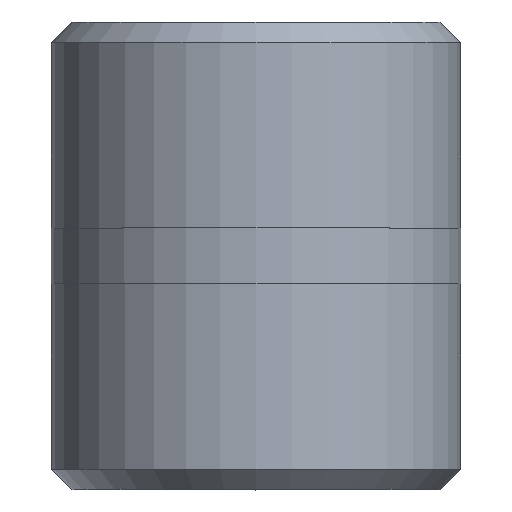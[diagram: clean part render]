
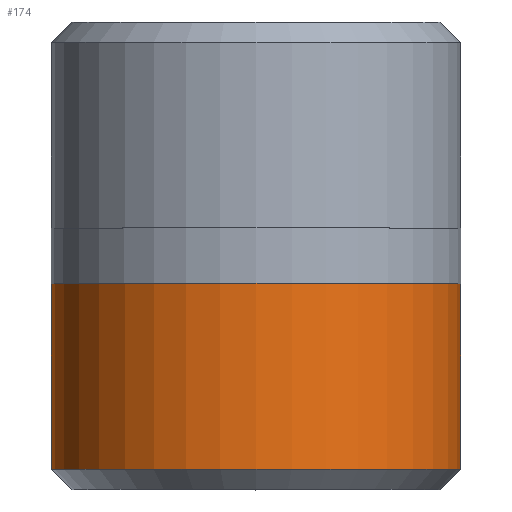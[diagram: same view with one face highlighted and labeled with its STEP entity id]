
A CAD part, top view. The second image highlights one B-rep face of the part: STEP entity #174.
In plain terms, the highlighted cylindrical face has radius 16.675 mm (diameter 33.35 mm), a full revolution.
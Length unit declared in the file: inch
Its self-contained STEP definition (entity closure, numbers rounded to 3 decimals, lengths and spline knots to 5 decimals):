
#23=CYLINDRICAL_SURFACE('',#201,0.6565);
#28=FACE_OUTER_BOUND('',#38,.T.);
#38=EDGE_LOOP('',(#128,#129,#130,#131,#132,#133));
#52=LINE('',#300,#58);
#58=VECTOR('',#238,0.6565);
#64=CIRCLE('',#199,0.6565);
#65=CIRCLE('',#200,0.6565);
#66=CIRCLE('',#202,0.6565);
#67=CIRCLE('',#203,0.6565);
#82=VERTEX_POINT('',#293);
#83=VERTEX_POINT('',#295);
#84=VERTEX_POINT('',#299);
#85=VERTEX_POINT('',#301);
#101=EDGE_CURVE('',#82,#83,#64,.T.);
#102=EDGE_CURVE('',#83,#82,#65,.T.);
#103=EDGE_CURVE('',#83,#84,#52,.T.);
#104=EDGE_CURVE('',#84,#85,#66,.T.);
#105=EDGE_CURVE('',#85,#84,#67,.T.);
#128=ORIENTED_EDGE('',*,*,#101,.F.);
#129=ORIENTED_EDGE('',*,*,#102,.F.);
#130=ORIENTED_EDGE('',*,*,#103,.T.);
#131=ORIENTED_EDGE('',*,*,#104,.T.);
#132=ORIENTED_EDGE('',*,*,#105,.T.);
#133=ORIENTED_EDGE('',*,*,#103,.F.);
#174=ADVANCED_FACE('',(#28),#23,.T.);
#199=AXIS2_PLACEMENT_3D('',#296,#232,#233);
#200=AXIS2_PLACEMENT_3D('',#297,#234,#235);
#201=AXIS2_PLACEMENT_3D('',#298,#236,#237);
#202=AXIS2_PLACEMENT_3D('',#302,#239,#240);
#203=AXIS2_PLACEMENT_3D('',#303,#241,#242);
#232=DIRECTION('center_axis',(0.,-1.,0.));
#233=DIRECTION('ref_axis',(0.,0.,1.));
#234=DIRECTION('center_axis',(0.,-1.,0.));
#235=DIRECTION('ref_axis',(0.,0.,1.));
#236=DIRECTION('center_axis',(0.,-1.,0.));
#237=DIRECTION('ref_axis',(0.,0.,-1.));
#238=DIRECTION('',(0.,1.,0.));
#239=DIRECTION('center_axis',(0.,-1.,0.));
#240=DIRECTION('ref_axis',(1.,0.,0.));
#241=DIRECTION('center_axis',(0.,-1.,0.));
#242=DIRECTION('ref_axis',(1.,0.,0.));
#293=CARTESIAN_POINT('',(0.,0.065,-0.6565));
#295=CARTESIAN_POINT('',(0.,0.065,0.6565));
#296=CARTESIAN_POINT('Origin',(0.,0.065,0.));
#297=CARTESIAN_POINT('Origin',(0.,0.065,0.));
#298=CARTESIAN_POINT('Origin',(0.,0.3305,0.));
#299=CARTESIAN_POINT('',(0.,0.661,0.6565));
#300=CARTESIAN_POINT('',(0.,0.3305,0.6565));
#301=CARTESIAN_POINT('',(0.,0.661,-0.6565));
#302=CARTESIAN_POINT('Origin',(0.,0.661,0.));
#303=CARTESIAN_POINT('Origin',(0.,0.661,0.));
